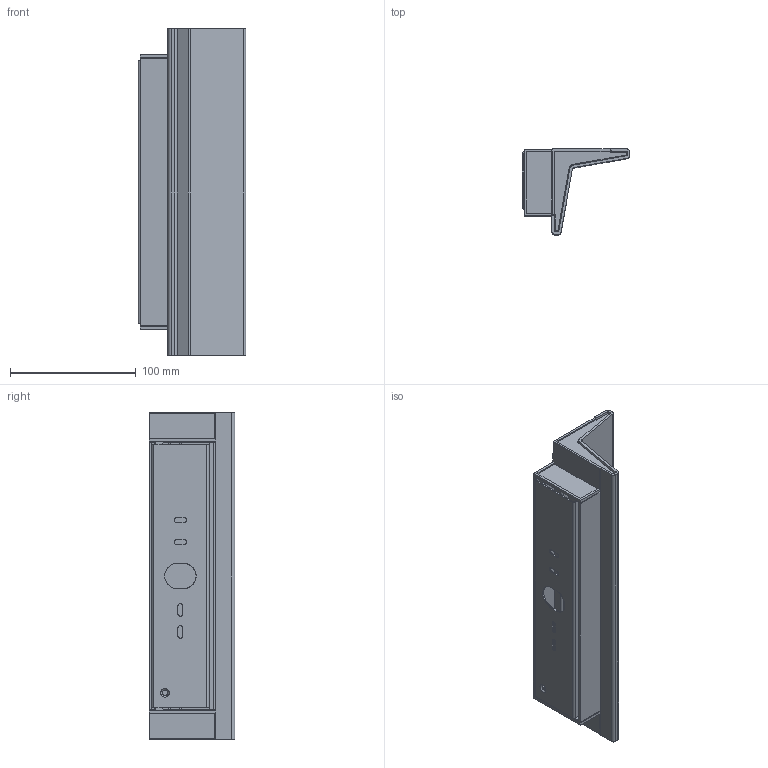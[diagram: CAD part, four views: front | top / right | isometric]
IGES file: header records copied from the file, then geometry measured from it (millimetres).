
Start section: SolidWorks IGES file using analytic representation for surfaces
Global section: file name: N:\Ingegneria\DISEGNI\PRODOTTI\ZENA\Zena_As.IGS; native system: SolidWorks 2016; preprocessor: SolidWorks 2016; author: DarioTentori; date: 230929.165329; units: millimetre
Bounding box: 85.7 x 68 x 260 mm (x, y, z)
Surface area: 194483.3 mm2 (no closed solid volume)
Topology: 0 solids, 0 shells, 1024 faces, 12138 edges, 12136 vertices
Faces by surface type: bspline 765, revolution 259
